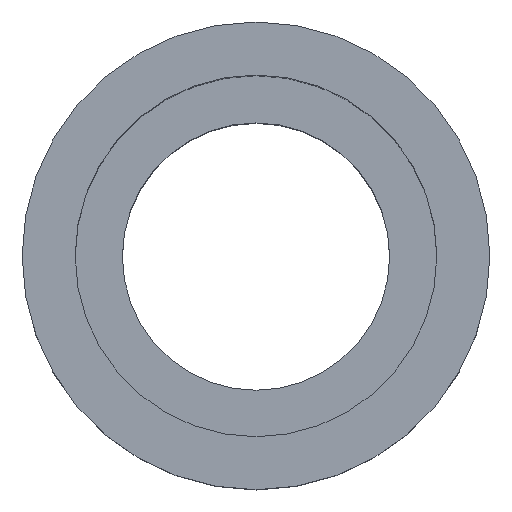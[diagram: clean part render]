
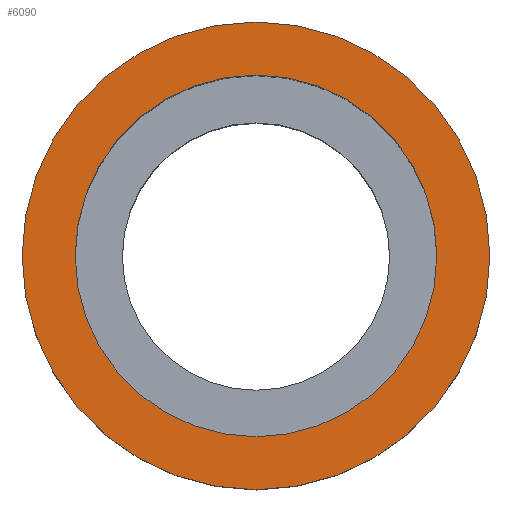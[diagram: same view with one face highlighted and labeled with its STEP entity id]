
A CAD part, top view. The second image highlights one B-rep face of the part: STEP entity #6090.
In plain terms, the highlighted planar face has unit normal (0, 0, 1) as drawn and (-1, 0, 0) by its records, which use the part's own axes.
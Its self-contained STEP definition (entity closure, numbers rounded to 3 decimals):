
#540=CARTESIAN_POINT('',(-57.538,-40.,-21.65));
#550=VERTEX_POINT('',#540);
#710=CARTESIAN_POINT('',(-57.538,-40.,21.65));
#720=VERTEX_POINT('',#710);
#750=CARTESIAN_POINT('',(-57.538,-40.,0.));
#760=DIRECTION('',(-1.,0.,0.));
#770=DIRECTION('',(0.,0.,1.));
#780=AXIS2_PLACEMENT_3D('',#750,#760,#770);
#790=CIRCLE('',#780,21.65);
#800=EDGE_CURVE('',#550,#720,#790,.T.);
#5840=CARTESIAN_POINT('',(-57.538,-66.575,0.));
#5850=DIRECTION('',(1.,0.,-0.));
#5860=DIRECTION('',(0.,1.,0.));
#5870=AXIS2_PLACEMENT_3D('',#5840,#5850,#5860);
#5880=PLANE('',#5870);
#5890=EDGE_CURVE('',#720,#550,#790,.T.);
#5900=ORIENTED_EDGE('',*,*,#5890,.F.);
#5910=ORIENTED_EDGE('',*,*,#800,.F.);
#5920=EDGE_LOOP('',(#5910,#5900));
#5930=FACE_BOUND('',#5920,.T.);
#5940=CARTESIAN_POINT('',(-57.538,-40.,0.));
#5950=DIRECTION('',(1.,0.,0.));
#5960=DIRECTION('',(0.,1.,0.));
#5970=AXIS2_PLACEMENT_3D('',#5940,#5950,#5960);
#5980=CIRCLE('',#5970,28.);
#5990=CARTESIAN_POINT('',(-57.538,-12.,0.));
#6000=VERTEX_POINT('',#5990);
#6010=CARTESIAN_POINT('',(-57.538,-68.,0.));
#6020=VERTEX_POINT('',#6010);
#6030=EDGE_CURVE('',#6000,#6020,#5980,.T.);
#6040=ORIENTED_EDGE('',*,*,#6030,.F.);
#6050=EDGE_CURVE('',#6020,#6000,#5980,.T.);
#6060=ORIENTED_EDGE('',*,*,#6050,.F.);
#6070=EDGE_LOOP('',(#6060,#6040));
#6080=FACE_OUTER_BOUND('',#6070,.T.);
#6090=ADVANCED_FACE('',(#5930,#6080),#5880,.F.);
